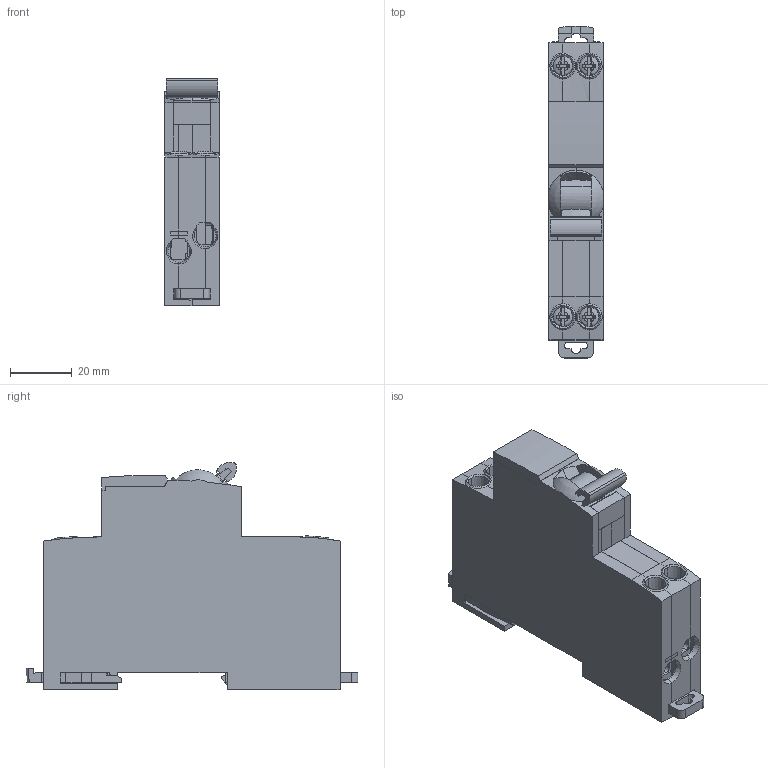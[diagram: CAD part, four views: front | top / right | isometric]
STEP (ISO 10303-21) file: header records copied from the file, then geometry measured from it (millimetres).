
FILE_DESCRIPTION((''),'2;1');
FILE_NAME('ACTI9_96_OFF-3D_SIMPLIFIED','2025-11-03T04:08:47',('pdmlink'),('Schneider-Electric'),'CREO PARAMETRIC BY PTC INC, 2025093','CREO PARAMETRIC BY PTC INC, 2025093','');
FILE_SCHEMA(('AP242_MANAGED_MODEL_BASED_3D_ENGINEERING_MIM_LF { 1 0 10303 442 1 1 4 }'));
Length unit declared in the file: millimetre
Products named in the file (1): ACTI9_96_OFF-3D_SIMPLIFIED
Bounding box: 17.6 x 107.15 x 73.36 mm (x, y, z)
Volume: 40361.7 mm3; surface area: 52612.7 mm2
Topology: 19 solids, 19 shells, 1372 faces, 3927 edges, 2583 vertices
Faces by surface type: plane 1058, cylinder 247, cone 34, bspline 31, sphere 2
Entity records: 47486 total; most frequent: CARTESIAN_POINT 10852, ORIENTED_EDGE 7850, DIRECTION 7057, EDGE_CURVE 3925, VECTOR 3209, LINE 3209, VERTEX_POINT 2582, AXIS2_PLACEMENT_3D 1924
